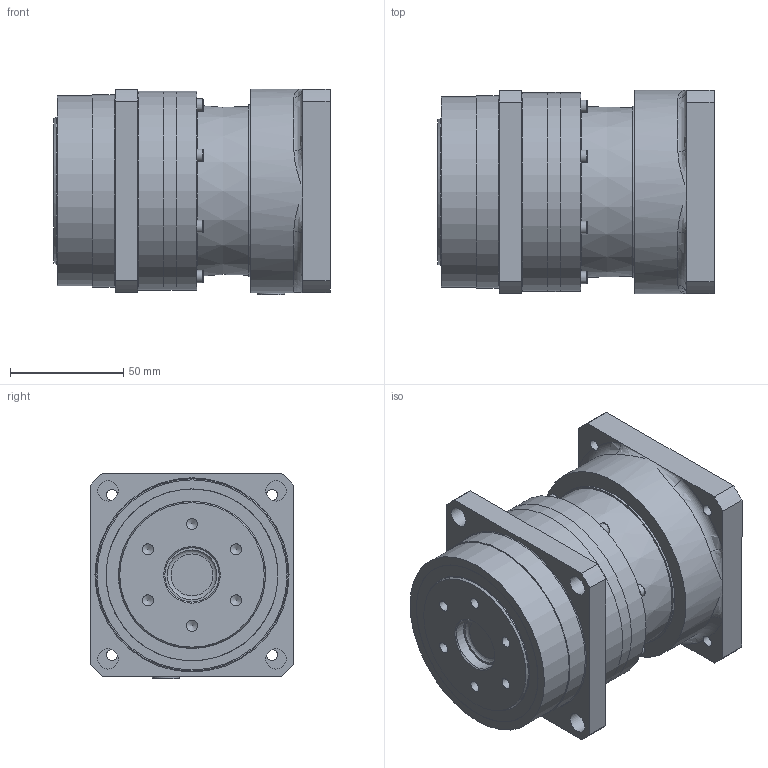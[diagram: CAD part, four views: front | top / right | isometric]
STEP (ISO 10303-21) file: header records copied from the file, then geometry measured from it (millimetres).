
FILE_DESCRIPTION(/* description */ ('ANFX-P120F-2-8E'),/* implementation_level */ '2;1');
FILE_NAME(/* name */ 'C:\Users\ADMINI~1\AppData\Local\Temp\MM578948_ANFX-P120F-2-8E.stp',/* time_stamp */ '2018-06-20T09:47:29+02:00',/* author */ ('Max'),/* organization */ (''),/* preprocessor_version */ 'ST-DEVELOPER v17',/* originating_system */ 'Autodesk Inventor 2018',/* authorisation */ '');
FILE_SCHEMA (('AUTOMOTIVE_DESIGN { 1 0 10303 214 3 1 1 }'));
Length unit declared in the file: millimetre
Products named in the file (21): MM581710; MMBG0004078; MMCL445LG; MMCM226LG; MAX4840G; MAW8381G; MMBG0004105; MMCH509LG; M204639; M204639-1; M204639-2; M204639-3; M204639-4; 212006; M530A30508---G; MMAP6504G; 009M005R014NG; MMAP1654G; MMCH633LG; 200458; MAW8386G
Assembly tree (46 placements, depth 4):
  MM581710
    MMBG0004078
      MMCL445LG
      MMCM226LG
      MAX4840G
      MAW8381G
    MMBG0004105
      MMCH509LG
      M204639
        M204639-1
        M204639-2
        M204639-3  x2
        M204639-4  x12
      212006  x8
      M530A30508---G
      MMAP6504G
      009M005R014NG
      MMAP1654G
    MMCH633LG
    200458  x8
    MAW8386G
Bounding box: 122 x 90 x 91 mm (x, y, z)
Volume: 417748.9 mm3; surface area: 177338.2 mm2
Topology: 85 solids, 85 shells, 636 faces, 1801 edges, 1284 vertices
Faces by surface type: plane 260, cylinder 180, cone 78, torus 59, sphere 53, bspline 6
Full cylindrical faces by diameter (mm): 2 x1, 2.459 x12, 3 x8, 3.4 x8, 3.5 x8, 4.134 x9, 4.917 x10, 5 x9, 5.5 x17, 8.5 x9, 9 x4, 9.8 x1, 10 x1, 10.2 x1, 10.4 x1, 12 x1, 14 x1, 16.5 x1, 24 x3, 28.6 x1, 29.4 x1, 29.6 x1, 30 x2, 32 x2, 34.2 x1, 35 x1, 38.25 x4, 38.85 x2, 46 x1, 47 x1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
Entity records: 15182 total; most frequent: CARTESIAN_POINT 2985, DIRECTION 2675, ORIENTED_EDGE 2132, AXIS2_PLACEMENT_3D 1186, EDGE_CURVE 1066, VERTEX_POINT 846, CIRCLE 719, EDGE_LOOP 574
